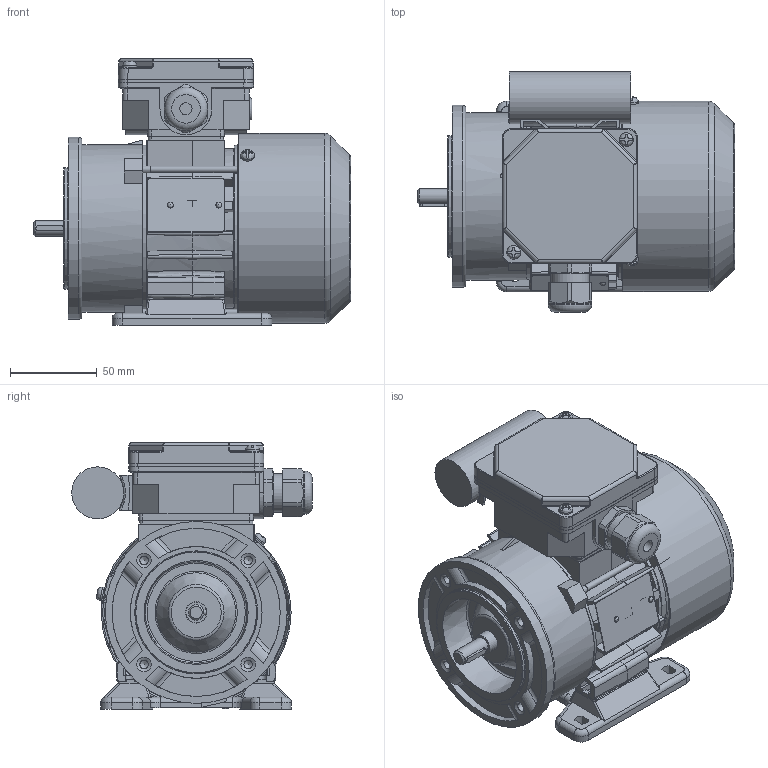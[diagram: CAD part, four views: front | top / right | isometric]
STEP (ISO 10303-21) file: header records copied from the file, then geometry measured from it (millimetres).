
FILE_DESCRIPTION( ( 'Unknown' ), '1' );
FILE_NAME( 'G:/Poczta Tk-1/STP/w.m.56/SEh56/SE(M)Lh56-A1.stp', 'Unknown', ( 'K. Szlosek' ), ( 'BESEL S.A.' ), 'PSStep 17.0.49', 'Unknown', ' ' );
FILE_SCHEMA( ( 'AUTOMOTIVE_DESIGN { 1 0 10303 214 1 1 1 1 }' ) );
Length unit declared in the file: millimetre
Products named in the file (32): Assem1; K4-2320 Uszczelka nr 1 Sh71,80; K3-9987 kadłub ze stojanem Sh56-B; K3-2193 Tarcza łożyskowa P Sg56-2..; K3-9990 wał Sh56-B; K2-0860 Pokrywka skrzynki zaciskowej; Wpust A3x3x16; K4-2820 Uszczelka nr 2 Sh71,80; Wkręt samogwintujący M4x8; Wkręt samogwintujący M4x16; K2-0879 Przewietrznik Sg56; Nitokołek A 2x6; K3-9440 Podstawa  skrzynki zaciskowej SEhR71-D; K4-0898 Tulejka uszczelniająca; K3-1974 Uchwyt kondensatora (mały); Kondensator bb 8uF; K1-0529 Tarcza kołnierzowa B14_1 SKg56-..1; K3-11363 Osłona przewietrznika Sh 56_A; K1-0484 Łapa Sg56-.. w. robocza; Dławnica M20x1,5; Łożysko 6201; Tabliczka znamionowa 32x44; Śruba ściągająca E_M4x75
Assembly tree (47 placements, depth 2):
  Assem1
    K4-2320 Uszczelka nr 1 Sh71,80
    K3-9987 kadłub ze stojanem Sh56-B
    K3-2193 Tarcza łożyskowa P Sg56-2..
    K3-9990 wał Sh56-B
    K2-0860 Pokrywka skrzynki zaciskowej
    Wpust A3x3x16
    K4-2820 Uszczelka nr 2 Sh71,80
    Wkręt samogwintujący M4x8  x3
    Wkręt samogwintujący M4x16  x2
    K2-0879 Przewietrznik Sg56
    Nitokołek A 2x6  x2
    K3-9440 Podstawa  skrzynki zaciskowej SEhR71-D
    K4-0898 Tulejka uszczelniająca
    K3-1974 Uchwyt kondensatora (mały)
    Kondensator bb 8uF
    K1-0529 Tarcza kołnierzowa B14_1 SKg56-..1
    K3-11363 Osłona przewietrznika Sh 56_A
    K1-0484 Łapa Sg56-.. w. robocza
    Dławnica M20x1,5
    Łożysko 6201  x2
    Łożysko 6201  x2
    Łożysko 6201  x2
    Łożysko 6201  x2
    Łożysko 6201  x2
    Łożysko 6201  x2
    Łożysko 6201  x2
    Łożysko 6201  x2
    Łożysko 6201  x2
    Łożysko 6201  x2
    Tabliczka znamionowa 32x44
    Śruba ściągająca E_M4x75  x3
Bounding box: 183 x 138.82 x 154 mm (x, y, z)
Volume: 542298.1 mm3; surface area: 326673.4 mm2
Topology: 47 solids, 63 shells, 1944 faces, 5224 edges, 3362 vertices
Faces by surface type: plane 997, cylinder 587, torus 140, cone 108, bspline 78, sphere 34
Full cylindrical faces by diameter (mm): 2 x2, 2.4 x2, 3 x1, 3.242 x3, 3.5 x2, 3.7 x10, 4 x8, 4.5 x4, 4.6 x2, 4.8 x4, 4.917 x4, 5 x4, 5.8 x4, 6.5 x1, 7 x4, 8 x6, 9 x1, 10 x2, 10.9 x1, 11 x1, 11.5 x1, 11.8 x2, 12 x4, 12.4 x2, 15.5 x1, 16 x1, 16.1 x1, 17 x2, 18 x1, 18.38 x1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
Entity records: 80847 total; most frequent: CARTESIAN_POINT 22920, DIRECTION 9149, ORIENTED_EDGE 9000, EDGE_CURVE 4500, AXIS2_PLACEMENT_3D 3390, VERTEX_POINT 3040, LINE 2369, VECTOR 2369
